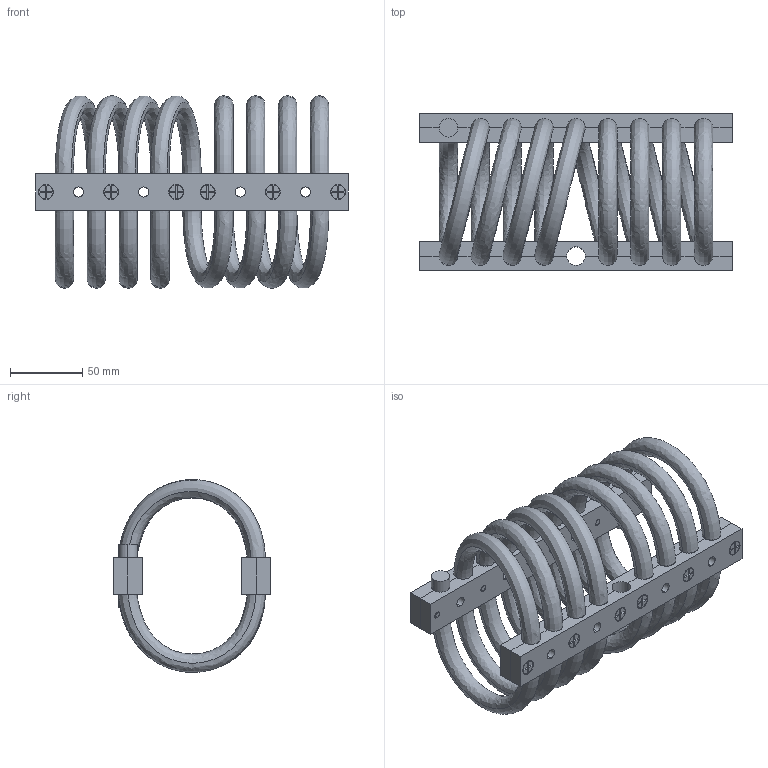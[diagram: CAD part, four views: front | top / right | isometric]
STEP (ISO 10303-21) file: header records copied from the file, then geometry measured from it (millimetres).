
FILE_DESCRIPTION (( 'STEP AP214' ), '1' );
FILE_NAME ('WR16-700-8DM.STEP', '2018-12-07T10:08:16', ( 'user' ), ( 'Microsoft' ), 'SwSTEP 2.0', 'SolidWorks 2016', '' );
FILE_SCHEMA (( 'AUTOMOTIVE_DESIGN' ));
Length unit declared in the file: millimetre
Products named in the file (1): WR16-700-8DM
Bounding box: 215.9 x 108 x 133 mm (x, y, z)
Volume: 524366.9 mm3; surface area: 197953.1 mm2
Topology: 34 solids, 34 shells, 664 faces, 1636 edges, 1068 vertices
Faces by surface type: plane 300, cylinder 258, cone 72, bspline 34
Entity records: 36148 total; most frequent: CARTESIAN_POINT 19216, ORIENTED_EDGE 3272, DIRECTION 3244, EDGE_CURVE 1636, AXIS2_PLACEMENT_3D 1159, VERTEX_POINT 1068, VECTOR 926, LINE 926
